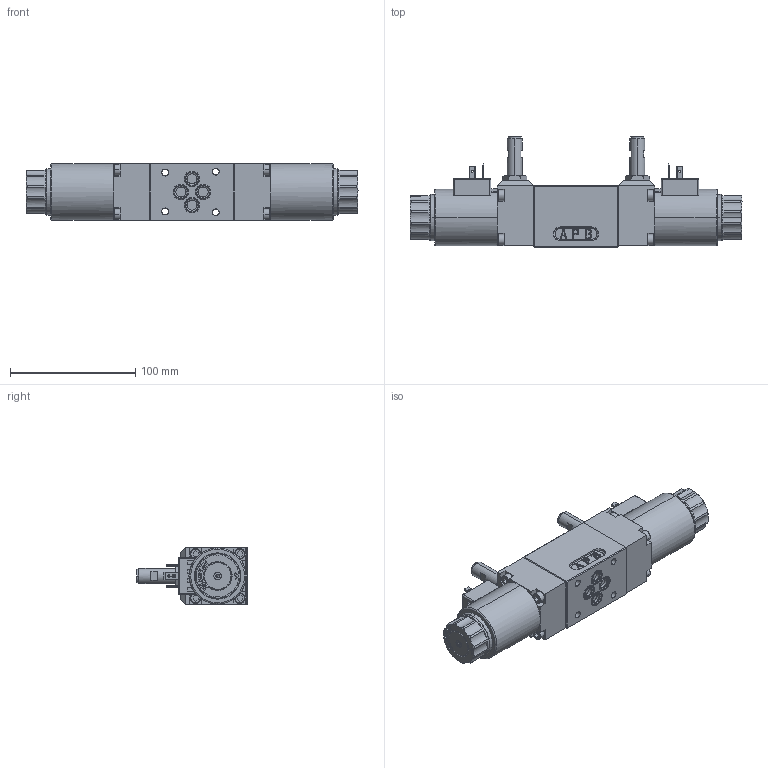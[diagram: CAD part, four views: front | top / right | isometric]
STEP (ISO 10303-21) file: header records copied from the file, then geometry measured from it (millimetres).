
FILE_DESCRIPTION (( 'STEP AP214' ), '1' );
FILE_NAME ('WDMFA06-4_3-Z482_Z603_Z680.STEP', '2019-08-12T13:45:05', ( '' ), ( '' ), 'SwSTEP 2.0', 'SolidWorks 2018', '' );
FILE_SCHEMA (( 'AUTOMOTIVE_DESIGN' ));
Length unit declared in the file: millimetre
Products named in the file (1): WDMFA06-4_3-Z482_Z603_Z680
Bounding box: 265.4 x 88 x 46 mm (x, y, z)
Volume: 492727.7 mm3; surface area: 71270.7 mm2
Topology: 13 solids, 17 shells, 2123 faces, 5671 edges, 3674 vertices
Faces by surface type: plane 1077, cylinder 727, cone 128, bspline 121, torus 44, sphere 26
Entity records: 93658 total; most frequent: CARTESIAN_POINT 18588, ORIENTED_EDGE 11286, DIRECTION 10819, EDGE_CURVE 5643, AXIS2_PLACEMENT_3D 3796, VERTEX_POINT 3673, VECTOR 3227, LINE 3227
